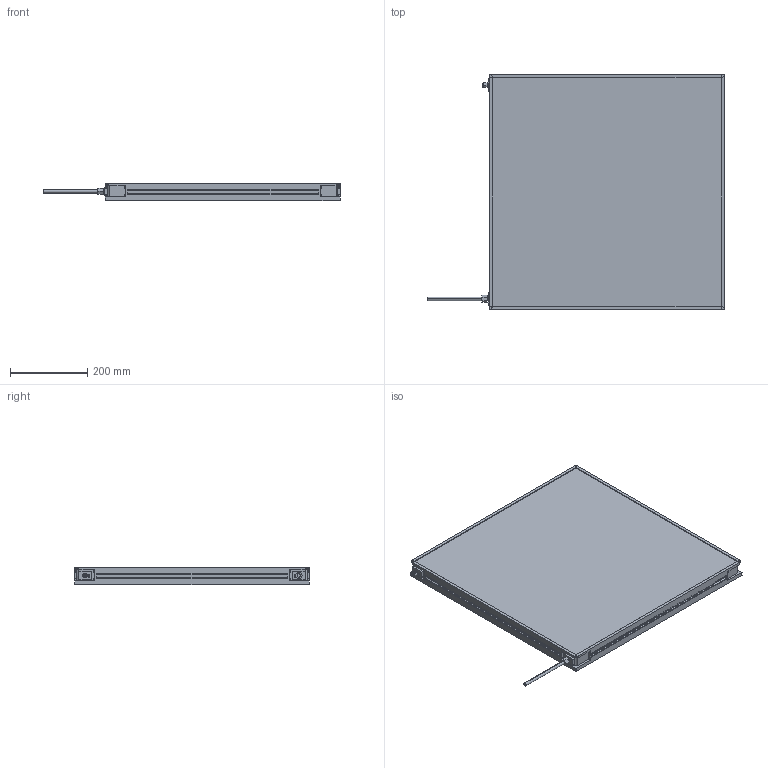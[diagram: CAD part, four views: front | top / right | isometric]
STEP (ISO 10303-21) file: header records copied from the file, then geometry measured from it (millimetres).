
FILE_DESCRIPTION (( 'STEP AP214' ), '1' );
FILE_NAME ('MBACK-xxxx-xxx-M1A2_CLIENT600x600.STEP', '2022-04-01T11:46:47', ( '' ), ( '' ), 'SwSTEP 2.0', 'SolidWorks 2020', '' );
FILE_SCHEMA (( 'AUTOMOTIVE_DESIGN' ));
Length unit declared in the file: millimetre
Products named in the file (1): MBACK-xxxx-xxx-M1A2_CLIENT600x600
Bounding box: 767.4 x 608 x 45.5 mm (x, y, z)
Volume: 15375448.8 mm3; surface area: 906712.8 mm2
Topology: 1 solids, 1 shells, 470 faces, 1210 edges, 804 vertices
Faces by surface type: plane 265, cylinder 117, bspline 80, cone 8
Entity records: 18046 total; most frequent: CARTESIAN_POINT 6837, ORIENTED_EDGE 2420, DIRECTION 2082, EDGE_CURVE 1210, VERTEX_POINT 804, LINE 800, VECTOR 800, AXIS2_PLACEMENT_3D 641
